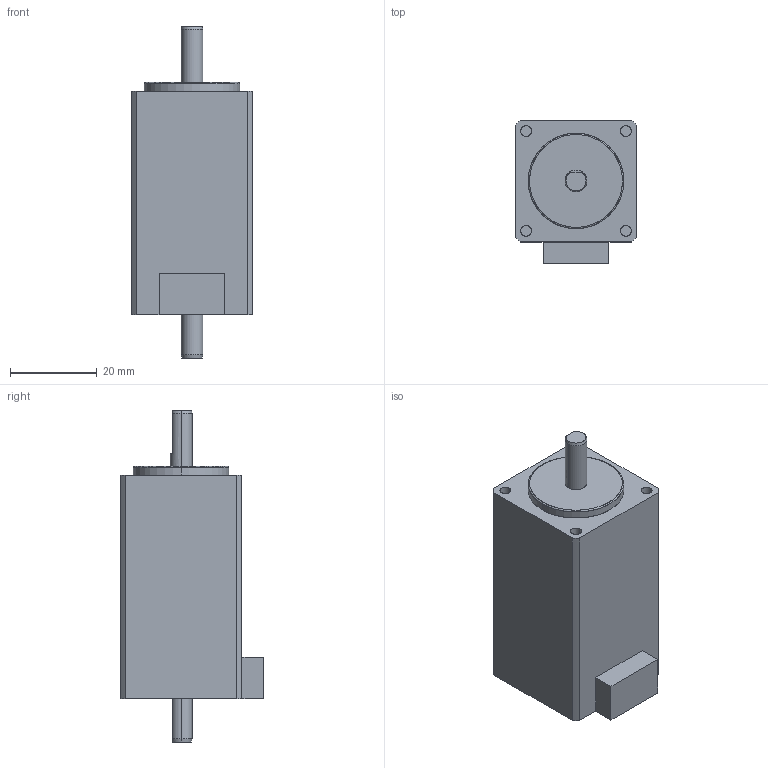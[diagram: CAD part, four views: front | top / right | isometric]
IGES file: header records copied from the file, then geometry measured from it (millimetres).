
Start section: SolidWorks IGES file using analytic representation for surfaces
Global section: file name: \\MCADserv\kari\7666\Plexmotion New 3D data\PMSB-U28DA3D_3D\PMSB-U28DA3D_3D.IGS; native system: SolidWorks 2014; preprocessor: SolidWorks 2014; author: user0016; date: 161115.114548; units: millimetre
Bounding box: 28 x 33 x 76.5 mm (x, y, z)
Surface area: 8821.7 mm2 (no closed solid volume)
Topology: 0 solids, 0 shells, 48 faces, 616 edges, 616 vertices
Faces by surface type: revolution 25, bspline 23
